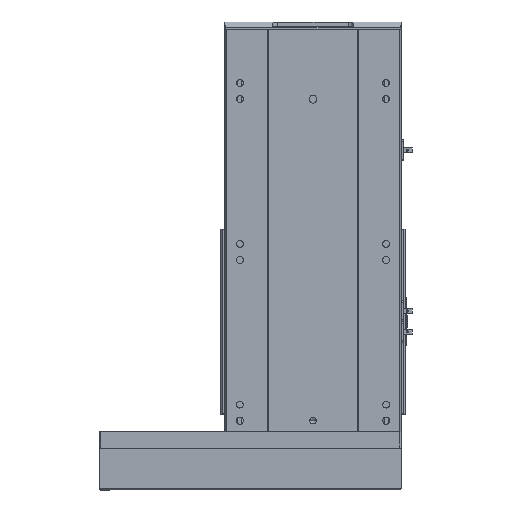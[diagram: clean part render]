
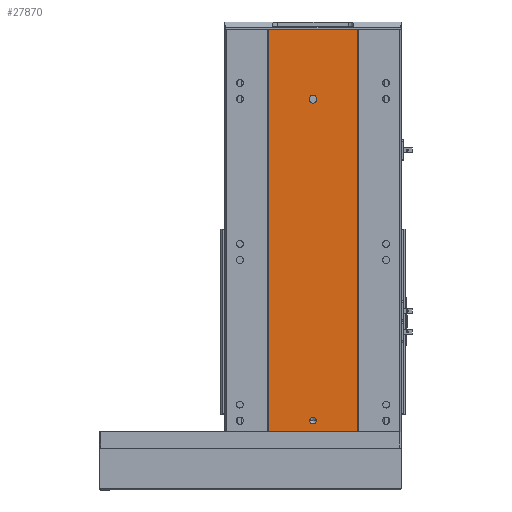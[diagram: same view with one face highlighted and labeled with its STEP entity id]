
A CAD part, top view. The second image highlights one B-rep face of the part: STEP entity #27870.
In plain terms, the highlighted planar face has unit normal (0, 0, 1).
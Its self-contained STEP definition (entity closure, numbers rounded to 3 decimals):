
#36 = DIRECTION ( 'NONE',  ( 0., 0., 1. ) ) ;
#1530 = AXIS2_PLACEMENT_3D ( 'NONE', #6920, #34652, #110004 ) ;
#2873 = VERTEX_POINT ( 'NONE', #26119 ) ;
#3304 = VERTEX_POINT ( 'NONE', #117735 ) ;
#5120 = CARTESIAN_POINT ( 'NONE',  ( 55., 0., 58. ) ) ;
#6920 = CARTESIAN_POINT ( 'NONE',  ( -55., 501., 58. ) ) ;
#8386 = CARTESIAN_POINT ( 'NONE',  ( -55., 501., 58. ) ) ;
#9314 = VERTEX_POINT ( 'NONE', #15868 ) ;
#12731 = CARTESIAN_POINT ( 'NONE',  ( -55., 0., 58. ) ) ;
#12953 = CARTESIAN_POINT ( 'NONE',  ( 0., 14., 58. ) ) ;
#14446 = EDGE_CURVE ( 'NONE', #56644, #18001, #107117, .T. ) ;
#15868 = CARTESIAN_POINT ( 'NONE',  ( -4., 413., 58. ) ) ;
#18001 = VERTEX_POINT ( 'NONE', #44681 ) ;
#20035 = DIRECTION ( 'NONE',  ( 0., 0., 1. ) ) ;
#20470 = CIRCLE ( 'NONE', #82989, 4. ) ;
#21195 = VECTOR ( 'NONE', #115039, 1000. ) ;
#21541 = DIRECTION ( 'NONE',  ( 0., 0., 1. ) ) ;
#23263 = FACE_BOUND ( 'NONE', #68569, .T. ) ;
#24972 = EDGE_CURVE ( 'NONE', #9314, #109677, #82762, .T. ) ;
#26119 = CARTESIAN_POINT ( 'NONE',  ( -4., 415., 58. ) ) ;
#27105 = ORIENTED_EDGE ( 'NONE', *, *, #90976, .T. ) ;
#27128 = EDGE_LOOP ( 'NONE', ( #27105, #64151, #78373, #54913 ) ) ;
#27870 = ADVANCED_FACE ( 'NONE', ( #23263, #75755, #103464 ), #119812, .F. ) ;
#28750 = CARTESIAN_POINT ( 'NONE',  ( 4., 413., 58. ) ) ;
#34652 = DIRECTION ( 'NONE',  ( 0., 0., -1. ) ) ;
#34830 = VERTEX_POINT ( 'NONE', #50312 ) ;
#41549 = EDGE_CURVE ( 'NONE', #3304, #107921, #97496, .T. ) ;
#43791 = ORIENTED_EDGE ( 'NONE', *, *, #68042, .F. ) ;
#44681 = CARTESIAN_POINT ( 'NONE',  ( -4., 14., 58. ) ) ;
#45950 = LINE ( 'NONE', #12731, #21195 ) ;
#50312 = CARTESIAN_POINT ( 'NONE',  ( -55., 0., 58. ) ) ;
#52322 = DIRECTION ( 'NONE',  ( 1., 0., 0. ) ) ;
#52776 = CARTESIAN_POINT ( 'NONE',  ( -4., 413., 58. ) ) ;
#53165 = EDGE_LOOP ( 'NONE', ( #43791, #102334, #68409, #98947 ) ) ;
#53197 = DIRECTION ( 'NONE',  ( 0., -1., 0. ) ) ;
#53274 = VERTEX_POINT ( 'NONE', #116091 ) ;
#54913 = ORIENTED_EDGE ( 'NONE', *, *, #92979, .T. ) ;
#56042 = DIRECTION ( 'NONE',  ( 0., 1., 0. ) ) ;
#56644 = VERTEX_POINT ( 'NONE', #110206 ) ;
#56920 = ORIENTED_EDGE ( 'NONE', *, *, #79782, .F. ) ;
#58623 = LINE ( 'NONE', #28750, #119952 ) ;
#60331 = LINE ( 'NONE', #99522, #118757 ) ;
#60467 = CARTESIAN_POINT ( 'NONE',  ( 0., 415., 58. ) ) ;
#63776 = DIRECTION ( 'NONE',  ( 0., -1., 0. ) ) ;
#64151 = ORIENTED_EDGE ( 'NONE', *, *, #41549, .F. ) ;
#65662 = DIRECTION ( 'NONE',  ( 1., 0., 0. ) ) ;
#67191 = VECTOR ( 'NONE', #109499, 1000. ) ;
#68042 = EDGE_CURVE ( 'NONE', #109677, #119796, #58623, .T. ) ;
#68409 = ORIENTED_EDGE ( 'NONE', *, *, #117875, .F. ) ;
#68569 = EDGE_LOOP ( 'NONE', ( #86973, #56920 ) ) ;
#68710 = LINE ( 'NONE', #8386, #67191 ) ;
#70749 = AXIS2_PLACEMENT_3D ( 'NONE', #85193, #20035, #65662 ) ;
#75755 = FACE_BOUND ( 'NONE', #53165, .T. ) ;
#78373 = ORIENTED_EDGE ( 'NONE', *, *, #101060, .F. ) ;
#78385 = DIRECTION ( 'NONE',  ( 0., 0., 1. ) ) ;
#78796 = DIRECTION ( 'NONE',  ( 1., 0., 0. ) ) ;
#79365 = CIRCLE ( 'NONE', #80639, 4. ) ;
#79782 = EDGE_CURVE ( 'NONE', #18001, #56644, #79365, .T. ) ;
#80639 = AXIS2_PLACEMENT_3D ( 'NONE', #12953, #21541, #96908 ) ;
#82703 = CARTESIAN_POINT ( 'NONE',  ( 4., 415., 58. ) ) ;
#82762 = CIRCLE ( 'NONE', #70749, 4. ) ;
#82989 = AXIS2_PLACEMENT_3D ( 'NONE', #60467, #78385, #78796 ) ;
#85193 = CARTESIAN_POINT ( 'NONE',  ( 0., 413., 58. ) ) ;
#86973 = ORIENTED_EDGE ( 'NONE', *, *, #14446, .F. ) ;
#87824 = AXIS2_PLACEMENT_3D ( 'NONE', #119500, #36, #52322 ) ;
#90976 = EDGE_CURVE ( 'NONE', #34830, #107921, #45950, .T. ) ;
#92979 = EDGE_CURVE ( 'NONE', #53274, #34830, #60331, .T. ) ;
#94702 = CARTESIAN_POINT ( 'NONE',  ( 55., 501., 58. ) ) ;
#96908 = DIRECTION ( 'NONE',  ( 1., 0., 0. ) ) ;
#97496 = LINE ( 'NONE', #94702, #117945 ) ;
#98947 = ORIENTED_EDGE ( 'NONE', *, *, #103753, .F. ) ;
#99522 = CARTESIAN_POINT ( 'NONE',  ( -55., 501., 58. ) ) ;
#100350 = VECTOR ( 'NONE', #53197, 1000. ) ;
#101060 = EDGE_CURVE ( 'NONE', #53274, #3304, #68710, .T. ) ;
#102334 = ORIENTED_EDGE ( 'NONE', *, *, #24972, .F. ) ;
#103464 = FACE_OUTER_BOUND ( 'NONE', #27128, .T. ) ;
#103753 = EDGE_CURVE ( 'NONE', #119796, #2873, #20470, .T. ) ;
#107117 = CIRCLE ( 'NONE', #87824, 4. ) ;
#107921 = VERTEX_POINT ( 'NONE', #5120 ) ;
#109499 = DIRECTION ( 'NONE',  ( 1., 0., 0. ) ) ;
#109677 = VERTEX_POINT ( 'NONE', #115106 ) ;
#110004 = DIRECTION ( 'NONE',  ( -1., 0., 0. ) ) ;
#110206 = CARTESIAN_POINT ( 'NONE',  ( 4., 14., 58. ) ) ;
#115039 = DIRECTION ( 'NONE',  ( 1., 0., 0. ) ) ;
#115106 = CARTESIAN_POINT ( 'NONE',  ( 4., 413., 58. ) ) ;
#116091 = CARTESIAN_POINT ( 'NONE',  ( -55., 501., 58. ) ) ;
#117577 = DIRECTION ( 'NONE',  ( 0., -1., 0. ) ) ;
#117735 = CARTESIAN_POINT ( 'NONE',  ( 55., 501., 58. ) ) ;
#117875 = EDGE_CURVE ( 'NONE', #2873, #9314, #119390, .T. ) ;
#117945 = VECTOR ( 'NONE', #63776, 1000. ) ;
#118757 = VECTOR ( 'NONE', #117577, 1000. ) ;
#119390 = LINE ( 'NONE', #52776, #100350 ) ;
#119500 = CARTESIAN_POINT ( 'NONE',  ( 0., 14., 58. ) ) ;
#119796 = VERTEX_POINT ( 'NONE', #82703 ) ;
#119812 = PLANE ( 'NONE',  #1530 ) ;
#119952 = VECTOR ( 'NONE', #56042, 1000. ) ;
